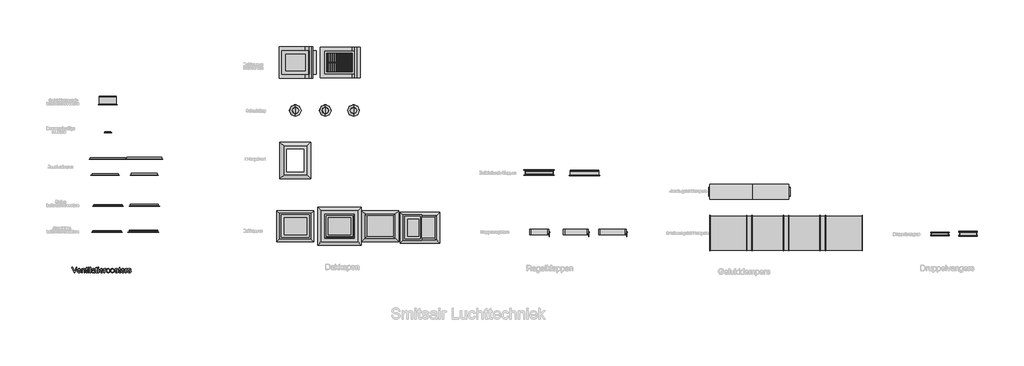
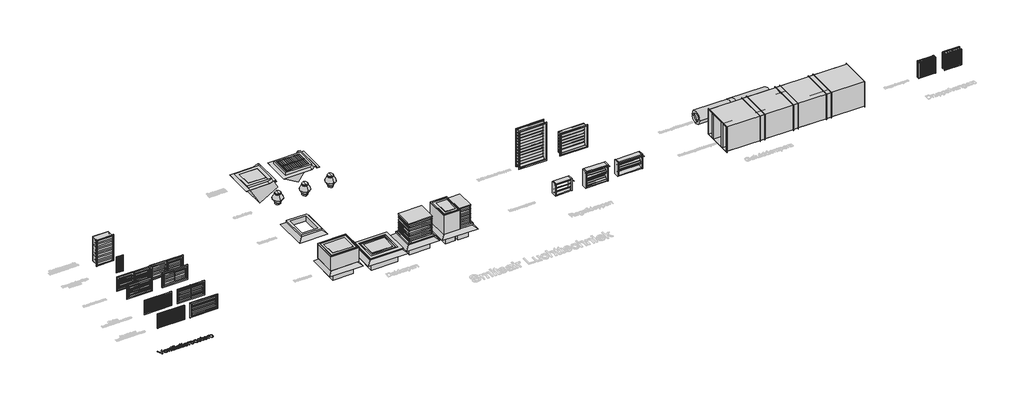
# One storey, part 1 of 10: 22 air terminals, 10 dampers, 5 duct fittings, 1 proxy.
"""IFC4 building model written with IfcOpenShell, lengths in millimetres."""

from ifc_helpers import new_model, si_unit, origin, origin_with_axes, place, context, project, spatial, polyline, outline, extrude, transform, mapped, element, save
from components import air_terminal_f73d2a48, air_terminal_51783a86, ba_50_fd4936a4, ba_70_810faa98, bdd_50_f3f2ff56, bdd_70_adf86e9b, bde_50_40d87701, bde_70_a498eccb, bv_50_3e811bb8, bv_70_c8e80291, bv_70v_ad4d4b1c, dk_2_3b327718, dk_2_3_f9d83f74, dk_2v_9633a85e, dk_3_dd5dadc6, dva_30_cbf1cae8, jkg_1_cb74e8c6, jkk_2_e62a3763, jkk_4_09f567d1, sk_1_al_d2a7be2b, dv_225_al_61a347db, dv_325_al_647e2a6a, gd_100_r_55da12c4, gd_200_r_bc078321, gr_9b835bf4, grk_93a78ed1, zk_1_24b9cdc8, zk_2_b9b7aa7c, dos_al_068ffbaa, dos_al_2472da44, dos_al_ee18bb0b, dos_al_2780d545

model = new_model("IFC4")

# Units and contexts
model_context = context("Model", 3, world=origin())
ifc_project = project(units=[si_unit("LENGTHUNIT", "METRE", prefix="MILLI")], contexts=[model_context])

# Site, building, storey
site = spatial("IfcSite", under=ifc_project)
building = spatial("IfcBuilding", under=site)
storey = spatial("IfcBuildingStorey", under=building, Name="Ventilatieroosters", Elevation=0.0)

# Air terminals
placement = place(None, origin())
air_terminal_shape = air_terminal_f73d2a48(model_context)
element("IfcAirTerminal", 1, ObjectType="NLRS_57_AIR_FB_Dakkap DK-2 verzonken_SMA : DK-2-verzonken", at=placement, inside=storey, context=model_context, shape_type="MappedRepresentation", body=[
    mapped(air_terminal_shape, transform((5430.6479588, -14830.5847281, 0.0), x_axis=(0.0, 1.0, 0.0), y_axis=(-1.0, 0.0, 0.0), z_axis=(0.0, 0.0, 1.0))),
])
air_terminal_2_shape = air_terminal_51783a86(model_context)
element("IfcAirTerminal", 2, ObjectType="NLRS_57_AIR_FB_Geluiddempende buitenluchtroosters GDBV-140 45_SMA : GDBV-140/45", at=placement, inside=storey, context=model_context, shape_type="MappedRepresentation", body=[
    mapped(air_terminal_2_shape, transform((-2775.2629133, -10521.5281632, 250.0), x_axis=(1.0, 0.0, 0.0), y_axis=(0.0, 0.0, 1.0), z_axis=(0.0, -1.0, 0.0))),
])
ba_50_shape = ba_50_fd4936a4(model_context)
element("IfcAirTerminal", 3, ObjectType="NLRS_57_AIR_FB_Buitenluchtroosters BA_SMA : BA-50", at=placement, inside=storey, context=model_context, shape_type="MappedRepresentation", body=[
    mapped(ba_50_shape, transform((-2801.7151524, -15038.7728485, 250.0), x_axis=(1.0, 0.0, 0.0), y_axis=(0.0, 0.0, 1.0), z_axis=(0.0, -1.0, 0.0))),
])
ba_70_shape = ba_70_810faa98(model_context)
element("IfcAirTerminal", 4, ObjectType="NLRS_57_AIR_FB_Buitenluchtroosters BA_SMA : BA-70", at=placement, inside=storey, context=model_context, shape_type="MappedRepresentation", body=[
    mapped(ba_70_shape, transform((-1516.6228349, -15038.7728485, 250.0), x_axis=(1.0, 0.0, 0.0), y_axis=(0.0, 0.0, 1.0), z_axis=(0.0, -1.0, 0.0))),
])
bdd_50_shape = bdd_50_f3f2ff56(model_context)
element("IfcAirTerminal", 5, ObjectType="NLRS_57_AIR_FB_Stalen-roosterdeuren BDD_SMA : BDD-50", at=placement, inside=storey, context=model_context, shape_type="MappedRepresentation", body=[
    mapped(bdd_50_shape, transform((-2775.2629133, -12457.1890865, 250.0), x_axis=(1.0, 0.0, 0.0), y_axis=(0.0, 0.0, 1.0), z_axis=(0.0, -1.0, 0.0))),
])
bdd_70_shape = bdd_70_adf86e9b(model_context)
element("IfcAirTerminal", 6, ObjectType="NLRS_57_AIR_FB_Stalen-roosterdeuren BDD_SMA : BDD-70", at=placement, inside=storey, context=model_context, shape_type="MappedRepresentation", body=[
    mapped(bdd_70_shape, transform((-1483.8873672, -12457.1890865, 250.0), x_axis=(1.0, 0.0, 0.0), y_axis=(0.0, 0.0, 1.0), z_axis=(0.0, -1.0, 0.0))),
])
bde_50_shape = bde_50_40d87701(model_context)
element("IfcAirTerminal", 7, ObjectType="NLRS_57_AIR_FB_Stalen-roosterdeuren BDE_SMA : BDE-50", at=placement, inside=storey, context=model_context, shape_type="MappedRepresentation", body=[
    mapped(bde_50_shape, transform((-2869.8074773, -13021.5281632, 250.0), x_axis=(1.0, 0.0, 0.0), y_axis=(0.0, 0.0, 1.0), z_axis=(0.0, -1.0, 0.0))),
])
bde_70_shape = bde_70_a498eccb(model_context)
element("IfcAirTerminal", 8, ObjectType="NLRS_57_AIR_FB_Stalen-roosterdeuren BDE_SMA : BDE-70", at=placement, inside=storey, context=model_context, shape_type="MappedRepresentation", body=[
    mapped(bde_70_shape, transform((-1483.8873672, -13021.5281632, 250.0), x_axis=(1.0, 0.0, 0.0), y_axis=(0.0, 0.0, 1.0), z_axis=(0.0, -1.0, 0.0))),
])
bv_50_shape = bv_50_3e811bb8(model_context)
element("IfcAirTerminal", 9, ObjectType="NLRS_57_AIR_FB_Buitenluchtroosters BV_SMA : BV-50", at=placement, inside=storey, context=model_context, shape_type="MappedRepresentation", body=[
    mapped(bv_50_shape, transform((-2775.2629133, -14121.5281632, 250.0), x_axis=(1.0, 0.0, 0.0), y_axis=(0.0, 0.0, 1.0), z_axis=(0.0, -1.0, 0.0))),
])
bv_70_shape = bv_70_c8e80291(model_context)
element("IfcAirTerminal", 10, ObjectType="NLRS_57_AIR_FB_Buitenluchtroosters BV_SMA : BV-70", at=placement, inside=storey, context=model_context, shape_type="MappedRepresentation", body=[
    mapped(bv_70_shape, transform((-1483.8873672, -14121.5281632, 250.0), x_axis=(1.0, 0.0, 0.0), y_axis=(0.0, 0.0, 1.0), z_axis=(0.0, -1.0, 0.0))),
])
bv_70v_shape = bv_70v_ad4d4b1c(model_context)
element("IfcAirTerminal", 11, ObjectType="NLRS_57_AIR_FB_Buitenluchtroosters BV-70V_SMA : BV-70V", at=placement, inside=storey, context=model_context, shape_type="MappedRepresentation", body=[
    mapped(bv_70v_shape, transform((5430.6479588, -9030.5847281, 0.0), x_axis=(0.0, 1.0, 0.0), y_axis=(-1.0, 0.0, 0.0), z_axis=(0.0, 0.0, 1.0))),
])
dk_2_shape = dk_2_3b327718(model_context)
element("IfcAirTerminal", 12, ObjectType="NLRS_57_AIR_FB_Dakkap DK-2_SMA : DK-2", at=placement, inside=storey, context=model_context, shape_type="MappedRepresentation", body=[
    mapped(dk_2_shape, transform((3868.8455262, -14830.5847281, 0.0), x_axis=(0.0, 1.0, 0.0), y_axis=(-1.0, 0.0, 0.0), z_axis=(0.0, 0.0, 1.0))),
])
dk_2_3_shape = dk_2_3_f9d83f74(model_context)
element("IfcAirTerminal", 13, ObjectType="NLRS_57_AIR_FB_Dakkap DK-23_SMA : DK-2/3", at=placement, inside=storey, context=model_context, shape_type="MappedRepresentation", body=[
    mapped(dk_2_3_shape, transform((8342.6268073, -14880.5847281, 0.0), x_axis=(1.0, 0.0, 0.0), y_axis=(0.0, 1.0, 0.0), z_axis=(0.0, 0.0, 1.0))),
])
dk_2v_shape = dk_2v_9633a85e(model_context)
element("IfcAirTerminal", 14, ObjectType="NLRS_57_AIR_FB_Dakkap DK-2V_SMA : DK-2V", at=placement, inside=storey, context=model_context, shape_type="MappedRepresentation", body=[
    mapped(dk_2v_shape, transform((3868.8455262, -9030.5847281, 0.0), x_axis=(0.0, 1.0, 0.0), y_axis=(-1.0, 0.0, 0.0), z_axis=(0.0, 0.0, 1.0))),
])
dk_3_shape = dk_3_dd5dadc6(model_context)
element("IfcAirTerminal", 15, ObjectType="NLRS_57_AIR_FB_Dakkap DK-3_SMA : DK-3", at=placement, inside=storey, context=model_context, shape_type="MappedRepresentation", body=[
    mapped(dk_3_shape, transform((6874.8932662, -14830.5847281, 0.0), x_axis=(0.0, 1.0, 0.0), y_axis=(-1.0, 0.0, 0.0), z_axis=(0.0, 0.0, 1.0))),
])
dva_30_shape = dva_30_cbf1cae8(model_context)
element("IfcAirTerminal", 16, ObjectType="NLRS_57_AIR_FB_Doorsteekveiligrooster DVA-30_SMA : DVA-30", at=placement, inside=storey, context=model_context, shape_type="MappedRepresentation", body=[
    mapped(dva_30_shape, transform((-2775.2629133, -11521.5281632, 300.0), x_axis=(1.0, 0.0, 0.0), y_axis=(0.0, 0.0, 1.0), z_axis=(0.0, -1.0, 0.0))),
])
jkg_1_shape = jkg_1_cb74e8c6(model_context)
element("IfcAirTerminal", 17, ObjectType="NLRS_57_DUA_UN_Kleppenregisters_SMA : JKG-1", at=placement, inside=storey, context=model_context, shape_type="MappedRepresentation", body=[
    mapped(jkg_1_shape, transform((12510.6479588, -15031.3842537, 300.0), x_axis=(0.0, -1.0, 0.0), y_axis=(1.0, 0.0, 0.0), z_axis=(0.0, 0.0, 1.0))),
])
jkk_2_shape = jkk_2_e62a3763(model_context)
element("IfcAirTerminal", 18, ObjectType="NLRS_57_DUA_UN_Kleppenregisters_SMA : JKK-2", at=placement, inside=storey, context=model_context, shape_type="MappedRepresentation", body=[
    mapped(jkk_2_shape, transform((13810.6479588, -15031.3842537, 300.0), x_axis=(0.0, -1.0, 0.0), y_axis=(1.0, 0.0, 0.0), z_axis=(0.0, 0.0, 1.0))),
])
jkk_4_shape = jkk_4_09f567d1(model_context)
element("IfcAirTerminal", 19, ObjectType="NLRS_57_DUA_UN_Kleppenregisters_SMA : JKK-4", at=placement, inside=storey, context=model_context, shape_type="MappedRepresentation", body=[
    mapped(jkk_4_shape, transform((15110.6479588, -15031.3842537, 300.0), x_axis=(0.0, -1.0, 0.0), y_axis=(1.0, 0.0, 0.0), z_axis=(0.0, 0.0, 1.0))),
])
sk_1_al_shape = sk_1_al_d2a7be2b(model_context)
element("IfcAirTerminal", 20, ObjectType="NLRS_57_AIR_FB_Schachtkap SK-1_SMA : SK-1/AL", at=placement, inside=storey, context=model_context, shape_type="MappedRepresentation", body=[
    mapped(sk_1_al_shape, transform((3868.8455262, -10727.1890865, 0.0), x_axis=(0.0, 1.0, 0.0), y_axis=(-1.0, 0.0, 0.0), z_axis=(0.0, 0.0, 1.0))),
])
element("IfcAirTerminal", 21, ObjectType="NLRS_57_AIR_FB_Schachtkap SK-1_SMA : SK-1/RVS", at=placement, inside=storey, context=model_context, shape_type="MappedRepresentation", body=[
    mapped(sk_1_al_shape, transform((4930.6479588, -10727.1890865, 0.0), x_axis=(0.0, 1.0, 0.0), y_axis=(-1.0, 0.0, 0.0), z_axis=(0.0, 0.0, 1.0))),
])
element("IfcAirTerminal", 22, ObjectType="NLRS_57_AIR_FB_Schachtkap SK-1_SMA : SK-1/VV", at=placement, inside=storey, context=model_context, shape_type="MappedRepresentation", body=[
    mapped(sk_1_al_shape, transform((5930.6479588, -10727.1890865, 0.0), x_axis=(0.0, 1.0, 0.0), y_axis=(-1.0, 0.0, 0.0), z_axis=(0.0, 0.0, 1.0))),
])

# Proxy
element("IfcBuildingElementProxy", 23, Name="200mm", ObjectType="200mm", at=placement, inside=storey, context=model_context, shape_type="SweptSolid", body=[
    extrude(outline(polyline([(-3973.5523473, -16478.0938306), (-4051.9177319, -16281.1707536), (-4025.571578, -16281.1707536), (-3973.119655, -16423.0457536), (-3962.494655, -16455.0169075), (-3952.0138857, -16423.0457536), (-3899.4177319, -16281.1707536), (-3873.071578, -16281.1707536), (-3948.119655, -16478.0938306), (-3973.5523473, -16478.0938306)])), origin_with_axes(), (0.0, 0.0, 1.0), 5.0),
    extrude(outline(polyline([(-3752.0138857, -16435.0169075), (-3727.8792704, -16438.0938306), (-3736.5751838, -16456.2789267), (-3750.4513857, -16469.8726767), (-3769.1953761, -16478.3462344), (-3792.494655, -16481.1707536), (-3821.3768665, -16476.2969556), (-3843.6004242, -16461.6755613), (-3857.7710973, -16438.2560902), (-3862.494655, -16406.9880613), (-3857.7230204, -16374.6683498), (-3843.4081165, -16350.4976767), (-3821.4850396, -16335.4255613), (-3793.8888857, -16330.4015229), (-3767.1521069, -16335.4135421), (-3745.7879242, -16350.4495998), (-3731.7795107, -16374.572196), (-3727.1100396, -16406.8438306), (-3727.2542704, -16413.478446), (-3837.8792704, -16413.478446), (-3833.618453, -16431.9039267), (-3823.7206165, -16445.4495998), (-3809.4357607, -16453.7789267), (-3792.0138857, -16456.555369), (-3767.8792704, -16451.4111383), (-3758.9129242, -16444.7404652), (-3752.0138857, -16435.0169075)]), holes=[polyline([(-3837.8792704, -16388.8630613), (-3751.7254242, -16388.8630613), (-3755.0547511, -16375.8582536), (-3761.5811934, -16366.555369), (-3775.932155, -16357.9015229), (-3793.9850396, -16355.0169075), (-3810.5775877, -16357.3185902), (-3824.2975396, -16364.2236383), (-3833.8347992, -16374.9868594), (-3837.8792704, -16388.8630613)])]), origin_with_axes(), (0.0, 0.0, 1.0), 5.0),
    extrude(outline(polyline([(-3702.494655, -16478.0938306), (-3702.494655, -16333.478446), (-3677.8792704, -16333.478446), (-3677.8792704, -16353.6707536), (-3669.3275877, -16343.4904652), (-3659.057155, -16336.2188306), (-3647.0679723, -16331.8558498), (-3633.3600396, -16330.4015229), (-3610.1148473, -16335.0890229), (-3594.2494627, -16347.3967152), (-3586.869655, -16365.4976767), (-3585.571578, -16389.2957536), (-3585.571578, -16478.0938306), (-3610.1869627, -16478.0938306), (-3610.1869627, -16392.6130613), (-3613.0235011, -16370.8342152), (-3623.0475396, -16359.3197921), (-3639.946578, -16355.0169075), (-3654.3636454, -16357.4327729), (-3666.6533088, -16364.680369), (-3675.07278, -16378.6827729), (-3677.8792704, -16401.3630613), (-3677.8792704, -16478.0938306), (-3702.494655, -16478.0938306)])), origin_with_axes(), (0.0, 0.0, 1.0), 5.0),
    extrude(outline(polyline([(-3499.4177319, -16457.5649844), (-3496.3408088, -16478.8149844), (-3514.7542704, -16481.1707536), (-3535.3792704, -16477.0842152), (-3545.6677319, -16466.3630613), (-3548.6485011, -16438.430369), (-3548.6485011, -16358.0938306), (-3567.1100396, -16358.0938306), (-3567.1100396, -16333.478446), (-3548.6485011, -16333.478446), (-3548.6485011, -16298.3342152), (-3524.0331165, -16283.8630613), (-3524.0331165, -16333.478446), (-3499.4177319, -16333.478446), (-3499.4177319, -16358.0938306), (-3524.0331165, -16358.0938306), (-3524.0331165, -16437.7092152), (-3522.7350396, -16450.4015229), (-3518.5283088, -16454.8967152), (-3510.1388857, -16456.555369), (-3499.4177319, -16457.5649844)])), origin_with_axes(), (0.0, 0.0, 1.0), 5.0),
    extrude(outline(polyline([(-3474.8023473, -16305.7861383), (-3474.8023473, -16281.1707536), (-3450.1869627, -16281.1707536), (-3450.1869627, -16305.7861383), (-3474.8023473, -16305.7861383)])), origin_with_axes(), (0.0, 0.0, 1.0), 5.0),
    extrude(outline(polyline([(-3474.8023473, -16478.0938306), (-3474.8023473, -16333.478446), (-3450.1869627, -16333.478446), (-3450.1869627, -16478.0938306), (-3474.8023473, -16478.0938306)])), origin_with_axes(), (0.0, 0.0, 1.0), 5.0),
    extrude(outline(polyline([(-3413.2638857, -16478.0938306), (-3413.2638857, -16281.1707536), (-3388.6485011, -16281.1707536), (-3388.6485011, -16478.0938306), (-3413.2638857, -16478.0938306)])), origin_with_axes(), (0.0, 0.0, 1.0), 5.0),
    extrude(outline(polyline([(-3259.4177319, -16459.6322921), (-3283.2879242, -16476.3149844), (-3309.6581165, -16481.1707536), (-3330.22903, -16478.2500806), (-3345.4033088, -16469.4880613), (-3354.76028, -16456.1827729), (-3357.8792704, -16439.6322921), (-3353.1677319, -16420.1611383), (-3340.7879242, -16406.0265229), (-3323.5523473, -16397.9495998), (-3302.2542704, -16394.2476767), (-3259.5619627, -16385.7861383), (-3259.4177319, -16380.305369), (-3261.1124434, -16369.3197921), (-3266.196578, -16362.1322921), (-3277.5667704, -16356.7957536), (-3293.4081165, -16355.0169075), (-3318.3119627, -16359.7524844), (-3325.2951357, -16366.320994), (-3330.1869627, -16376.555369), (-3354.8023473, -16373.478446), (-3344.1533088, -16349.4399844), (-3335.0787896, -16341.3510421), (-3322.7110011, -16335.353446), (-3290.2350396, -16330.4015229), (-3260.4033088, -16334.7765229), (-3243.5523473, -16345.7620998), (-3236.0042704, -16362.4688306), (-3234.8023473, -16384.0072921), (-3234.8023473, -16414.6322921), (-3233.5523473, -16457.3967152), (-3228.6485011, -16478.0938306), (-3253.2638857, -16478.0938306), (-3259.4177319, -16459.6322921)]), holes=[polyline([(-3259.4177319, -16410.4015229), (-3299.1292704, -16417.9495998), (-3320.307155, -16421.9399844), (-3329.8985011, -16428.430369), (-3333.2638857, -16437.9015229), (-3331.430953, -16445.2212344), (-3325.932155, -16451.2188306), (-3316.8876838, -16455.2212344), (-3304.4177319, -16456.555369), (-3291.196578, -16455.0830133), (-3279.5138857, -16450.665946), (-3263.4561934, -16436.4111383), (-3259.5619627, -16417.3726767), (-3259.4177319, -16410.4015229)])]), origin_with_axes(), (0.0, 0.0, 1.0), 5.0),
    extrude(outline(polyline([(-3148.6485011, -16457.5649844), (-3145.571578, -16478.8149844), (-3163.9850396, -16481.1707536), (-3184.6100396, -16477.0842152), (-3194.8985011, -16466.3630613), (-3197.8792704, -16438.430369), (-3197.8792704, -16358.0938306), (-3216.3408088, -16358.0938306), (-3216.3408088, -16333.478446), (-3197.8792704, -16333.478446), (-3197.8792704, -16298.3342152), (-3173.2638857, -16283.8630613), (-3173.2638857, -16333.478446), (-3148.6485011, -16333.478446), (-3148.6485011, -16358.0938306), (-3173.2638857, -16358.0938306), (-3173.2638857, -16437.7092152), (-3171.9658088, -16450.4015229), (-3167.759078, -16454.8967152), (-3159.369655, -16456.555369), (-3148.6485011, -16457.5649844)])), origin_with_axes(), (0.0, 0.0, 1.0), 5.0),
    extrude(outline(polyline([(-3124.0331165, -16305.7861383), (-3124.0331165, -16281.1707536), (-3099.4177319, -16281.1707536), (-3099.4177319, -16305.7861383), (-3124.0331165, -16305.7861383)])), origin_with_axes(), (0.0, 0.0, 1.0), 5.0),
    extrude(outline(polyline([(-3124.0331165, -16478.0938306), (-3124.0331165, -16333.478446), (-3099.4177319, -16333.478446), (-3099.4177319, -16478.0938306), (-3124.0331165, -16478.0938306)])), origin_with_axes(), (0.0, 0.0, 1.0), 5.0),
    extrude(outline(polyline([(-2961.244655, -16435.0169075), (-2937.1100396, -16438.0938306), (-2945.805953, -16456.2789267), (-2959.682155, -16469.8726767), (-2978.4261454, -16478.3462344), (-3001.7254242, -16481.1707536), (-3030.6076357, -16476.2969556), (-3052.8311934, -16461.6755613), (-3067.0018665, -16438.2560902), (-3071.7254242, -16406.9880613), (-3066.9537896, -16374.6683498), (-3052.6388857, -16350.4976767), (-3030.7158088, -16335.4255613), (-3003.119655, -16330.4015229), (-2976.3828761, -16335.4135421), (-2955.0186934, -16350.4495998), (-2941.01028, -16374.572196), (-2936.3408088, -16406.8438306), (-2936.4850396, -16413.478446), (-3047.1100396, -16413.478446), (-3042.8492223, -16431.9039267), (-3032.9513857, -16445.4495998), (-3018.66653, -16453.7789267), (-3001.244655, -16456.555369), (-2977.1100396, -16451.4111383), (-2968.1436934, -16444.7404652), (-2961.244655, -16435.0169075)]), holes=[polyline([(-3047.1100396, -16388.8630613), (-2960.9561934, -16388.8630613), (-2964.2855204, -16375.8582536), (-2970.8119627, -16366.555369), (-2985.1629242, -16357.9015229), (-3003.2158088, -16355.0169075), (-3019.8083569, -16357.3185902), (-3033.5283088, -16364.2236383), (-3043.0655684, -16374.9868594), (-3047.1100396, -16388.8630613)])]), origin_with_axes(), (0.0, 0.0, 1.0), 5.0),
    extrude(outline(polyline([(-2911.7254242, -16478.0938306), (-2911.7254242, -16333.478446), (-2890.1869627, -16333.478446), (-2890.1869627, -16354.8726767), (-2874.8985011, -16335.1611383), (-2859.5138857, -16330.4015229), (-2847.2542704, -16332.3005613), (-2834.8023473, -16337.9976767), (-2843.0235011, -16360.0649844), (-2860.3311934, -16355.0169075), (-2874.2494627, -16359.8726767), (-2883.119655, -16373.3342152), (-2887.1100396, -16402.0842152), (-2887.1100396, -16478.0938306), (-2911.7254242, -16478.0938306)])), origin_with_axes(), (0.0, 0.0, 1.0), 5.0),
    extrude(outline(polyline([(-2825.571578, -16405.7861383), (-2820.2470588, -16370.9183498), (-2813.5914098, -16357.3696719), (-2804.2735011, -16346.4111383), (-2784.5379242, -16334.4039267), (-2760.9081165, -16330.4015229), (-2735.0487415, -16335.275321), (-2714.3936934, -16349.8967152), (-2700.85403, -16373.1118594), (-2696.3408088, -16403.7669075), (-2698.3360011, -16428.634696), (-2704.321578, -16447.5649844), (-2714.1232607, -16461.7416671), (-2727.5667704, -16472.3486383), (-2743.5343184, -16478.9652248), (-2760.9081165, -16481.1707536), (-2787.0799915, -16476.3149844), (-2807.7110011, -16461.7476767), (-2821.1064338, -16438.0457536), (-2825.571578, -16405.7861383)]), holes=[polyline([(-2800.9561934, -16405.7380613), (-2798.1076357, -16428.0157056), (-2789.5619627, -16443.8870998), (-2776.7013857, -16453.3883017), (-2760.9081165, -16456.555369), (-2745.1869627, -16453.3702729), (-2732.3504242, -16443.8149844), (-2723.8047511, -16427.7332536), (-2720.9561934, -16404.9688306), (-2723.82278, -16383.3402248), (-2732.4225396, -16367.6851767), (-2745.2771069, -16358.1839748), (-2760.9081165, -16355.0169075), (-2776.7013857, -16358.1719556), (-2789.5619627, -16367.6370998), (-2798.1076357, -16383.4724363), (-2800.9561934, -16405.7380613)])]), origin_with_axes(), (0.0, 0.0, 1.0), 5.0),
    extrude(outline(polyline([(-2674.8023473, -16405.7861383), (-2669.477828, -16370.9183498), (-2662.822179, -16357.3696719), (-2653.5042704, -16346.4111383), (-2633.7686934, -16334.4039267), (-2610.1388857, -16330.4015229), (-2584.2795107, -16335.275321), (-2563.6244627, -16349.8967152), (-2550.0847992, -16373.1118594), (-2545.571578, -16403.7669075), (-2547.5667704, -16428.634696), (-2553.5523473, -16447.5649844), (-2563.35403, -16461.7416671), (-2576.7975396, -16472.3486383), (-2592.7650877, -16478.9652248), (-2610.1388857, -16481.1707536), (-2636.3107607, -16476.3149844), (-2656.9417704, -16461.7476767), (-2670.337203, -16438.0457536), (-2674.8023473, -16405.7861383)]), holes=[polyline([(-2650.1869627, -16405.7380613), (-2647.338405, -16428.0157056), (-2638.7927319, -16443.8870998), (-2625.932155, -16453.3883017), (-2610.1388857, -16456.555369), (-2594.4177319, -16453.3702729), (-2581.5811934, -16443.8149844), (-2573.0355204, -16427.7332536), (-2570.1869627, -16404.9688306), (-2573.0535492, -16383.3402248), (-2581.6533088, -16367.6851767), (-2594.5078761, -16358.1839748), (-2610.1388857, -16355.0169075), (-2625.932155, -16358.1719556), (-2638.7927319, -16367.6370998), (-2647.338405, -16383.4724363), (-2650.1869627, -16405.7380613)])]), origin_with_axes(), (0.0, 0.0, 1.0), 5.0),
    extrude(outline(polyline([(-2527.1100396, -16435.0169075), (-2502.494655, -16431.9399844), (-2498.6124434, -16442.4688306), (-2491.1004242, -16450.2092152), (-2479.9105204, -16454.9688306), (-2464.994655, -16456.555369), (-2450.259078, -16455.1010421), (-2439.8985011, -16450.7380613), (-2433.7686934, -16444.415946), (-2431.7254242, -16437.0842152), (-2433.7807127, -16430.8101767), (-2439.946578, -16426.0265229), (-2465.2831165, -16419.0072921), (-2502.3504242, -16406.9640229), (-2518.5283088, -16392.9015229), (-2524.0331165, -16373.0457536), (-2519.6100396, -16354.7044075), (-2507.5427319, -16340.6899844), (-2491.8936934, -16333.4063306), (-2470.7158088, -16330.4015229), (-2440.7638857, -16335.2332536), (-2429.5619627, -16340.9183498), (-2421.7254242, -16348.3101767), (-2413.2638857, -16370.4015229), (-2437.8792704, -16373.478446), (-2440.9862415, -16365.7320517), (-2447.134078, -16359.8967152), (-2468.7927319, -16355.0169075), (-2482.9273473, -16356.1827729), (-2492.3504242, -16359.680369), (-2497.650905, -16364.728446), (-2499.4177319, -16370.5457536), (-2496.4850396, -16377.7092152), (-2487.3023473, -16383.1419075), (-2466.1004242, -16388.3822921), (-2429.9706165, -16399.9688306), (-2413.1917704, -16413.0938306), (-2408.6304723, -16422.7452729), (-2407.1100396, -16434.4880613), (-2408.8948954, -16446.6274844), (-2414.2494627, -16458.0457536), (-2422.9694146, -16467.8474363), (-2434.8504242, -16475.1370998), (-2449.2013857, -16479.6623402), (-2465.3311934, -16481.1707536), (-2490.150905, -16478.2620998), (-2508.2638857, -16469.5361383), (-2520.3552319, -16455.0890229), (-2527.1100396, -16435.0169075)])), origin_with_axes(), (0.0, 0.0, 1.0), 5.0),
    extrude(outline(polyline([(-2327.1100396, -16457.5649844), (-2324.0331165, -16478.8149844), (-2342.446578, -16481.1707536), (-2363.071578, -16477.0842152), (-2373.3600396, -16466.3630613), (-2376.3408088, -16438.430369), (-2376.3408088, -16358.0938306), (-2394.8023473, -16358.0938306), (-2394.8023473, -16333.478446), (-2376.3408088, -16333.478446), (-2376.3408088, -16298.3342152), (-2351.7254242, -16283.8630613), (-2351.7254242, -16333.478446), (-2327.1100396, -16333.478446), (-2327.1100396, -16358.0938306), (-2351.7254242, -16358.0938306), (-2351.7254242, -16437.7092152), (-2350.4273473, -16450.4015229), (-2346.2206165, -16454.8967152), (-2337.8311934, -16456.555369), (-2327.1100396, -16457.5649844)])), origin_with_axes(), (0.0, 0.0, 1.0), 5.0),
    extrude(outline(polyline([(-2201.244655, -16435.0169075), (-2177.1100396, -16438.0938306), (-2185.805953, -16456.2789267), (-2199.682155, -16469.8726767), (-2218.4261454, -16478.3462344), (-2241.7254242, -16481.1707536), (-2270.6076357, -16476.2969556), (-2292.8311934, -16461.6755613), (-2307.0018665, -16438.2560902), (-2311.7254242, -16406.9880613), (-2306.9537896, -16374.6683498), (-2292.6388857, -16350.4976767), (-2270.7158088, -16335.4255613), (-2243.119655, -16330.4015229), (-2216.3828761, -16335.4135421), (-2195.0186934, -16350.4495998), (-2181.01028, -16374.572196), (-2176.3408088, -16406.8438306), (-2176.4850396, -16413.478446), (-2287.1100396, -16413.478446), (-2282.8492223, -16431.9039267), (-2272.9513857, -16445.4495998), (-2258.66653, -16453.7789267), (-2241.244655, -16456.555369), (-2217.1100396, -16451.4111383), (-2208.1436934, -16444.7404652), (-2201.244655, -16435.0169075)]), holes=[polyline([(-2287.1100396, -16388.8630613), (-2200.9561934, -16388.8630613), (-2204.2855204, -16375.8582536), (-2210.8119627, -16366.555369), (-2225.1629242, -16357.9015229), (-2243.2158088, -16355.0169075), (-2259.8083569, -16357.3185902), (-2273.5283088, -16364.2236383), (-2283.0655684, -16374.9868594), (-2287.1100396, -16388.8630613)])]), origin_with_axes(), (0.0, 0.0, 1.0), 5.0),
    extrude(outline(polyline([(-2151.7254242, -16478.0938306), (-2151.7254242, -16333.478446), (-2130.1869627, -16333.478446), (-2130.1869627, -16354.8726767), (-2114.8985011, -16335.1611383), (-2099.5138857, -16330.4015229), (-2087.2542704, -16332.3005613), (-2074.8023473, -16337.9976767), (-2083.0235011, -16360.0649844), (-2100.3311934, -16355.0169075), (-2114.2494627, -16359.8726767), (-2123.119655, -16373.3342152), (-2127.1100396, -16402.0842152), (-2127.1100396, -16478.0938306), (-2151.7254242, -16478.0938306)])), origin_with_axes(), (0.0, 0.0, 1.0), 5.0),
    extrude(outline(polyline([(-2068.6485011, -16435.0169075), (-2044.0331165, -16431.9399844), (-2040.150905, -16442.4688306), (-2032.6388857, -16450.2092152), (-2021.4489819, -16454.9688306), (-2006.5331165, -16456.555369), (-1991.7975396, -16455.1010421), (-1981.4369627, -16450.7380613), (-1975.307155, -16444.415946), (-1973.2638857, -16437.0842152), (-1975.3191742, -16430.8101767), (-1981.4850396, -16426.0265229), (-2006.821578, -16419.0072921), (-2043.8888857, -16406.9640229), (-2060.0667704, -16392.9015229), (-2065.571578, -16373.0457536), (-2061.1485011, -16354.7044075), (-2049.0811934, -16340.6899844), (-2033.432155, -16333.4063306), (-2012.2542704, -16330.4015229), (-1982.3023473, -16335.2332536), (-1971.1004242, -16340.9183498), (-1963.2638857, -16348.3101767), (-1954.8023473, -16370.4015229), (-1979.4177319, -16373.478446), (-1982.524703, -16365.7320517), (-1988.6725396, -16359.8967152), (-2010.3311934, -16355.0169075), (-2024.4658088, -16356.1827729), (-2033.8888857, -16359.680369), (-2039.1893665, -16364.728446), (-2040.9561934, -16370.5457536), (-2038.0235011, -16377.7092152), (-2028.8408088, -16383.1419075), (-2007.6388857, -16388.3822921), (-1971.509078, -16399.9688306), (-1954.7302319, -16413.0938306), (-1950.1689338, -16422.7452729), (-1948.6485011, -16434.4880613), (-1950.4333569, -16446.6274844), (-1955.7879242, -16458.0457536), (-1964.5078761, -16467.8474363), (-1976.3888857, -16475.1370998), (-1990.7398473, -16479.6623402), (-2006.869655, -16481.1707536), (-2031.6893665, -16478.2620998), (-2049.8023473, -16469.5361383), (-2061.8936934, -16455.0890229), (-2068.6485011, -16435.0169075)])), origin_with_axes(), (0.0, 0.0, 1.0), 5.0),
])

# Dampers
dv_225_al_shape = dv_225_al_61a347db(model_context)
element("IfcDamper", 24, ObjectType="NLRS_57_DUA_UN_Druppelvangers DV_SMA : DV-225/AL", at=placement, inside=storey, context=model_context, shape_type="MappedRepresentation", body=[
    mapped(dv_225_al_shape, transform((26710.6479588, -15102.7465167, 300.0), x_axis=(0.0, -1.0, 0.0), y_axis=(1.0, 0.0, 0.0), z_axis=(0.0, 0.0, 1.0))),
])
dv_325_al_shape = dv_325_al_647e2a6a(model_context)
element("IfcDamper", 25, ObjectType="NLRS_57_DUA_UN_Druppelvangers DV_SMA : DV-325/AL", at=placement, inside=storey, context=model_context, shape_type="MappedRepresentation", body=[
    mapped(dv_325_al_shape, transform((27710.6479588, -15102.7465167, 300.0), x_axis=(0.0, -1.0, 0.0), y_axis=(1.0, 0.0, 0.0), z_axis=(0.0, 0.0, 1.0))),
])
gd_100_r_shape = gd_100_r_55da12c4(model_context)
element("IfcDamper", 26, ObjectType="NLRS_57_DUA_UN_Coulissengeluiddempers_SMA : GD-100", at=placement, inside=storey, context=model_context, shape_type="MappedRepresentation", body=[
    mapped(gd_100_r_shape, transform((19310.6479588, -15073.4453411, 500.0), x_axis=(1.0, 0.0, 0.0), y_axis=(0.0, 1.0, 0.0), z_axis=(0.0, 0.0, 1.0))),
])
element("IfcDamper", 27, ObjectType="NLRS_57_DUA_UN_Coulissengeluiddempers_SMA : GD-100 R", at=placement, inside=storey, context=model_context, shape_type="MappedRepresentation", body=[
    mapped(gd_100_r_shape, transform((20610.6479588, -15073.4453411, 500.0), x_axis=(1.0, 0.0, 0.0), y_axis=(0.0, 1.0, 0.0), z_axis=(0.0, 0.0, 1.0))),
])
gd_200_r_shape = gd_200_r_bc078321(model_context)
element("IfcDamper", 28, ObjectType="NLRS_57_DUA_UN_Coulissengeluiddempers_SMA : GD-200", at=placement, inside=storey, context=model_context, shape_type="MappedRepresentation", body=[
    mapped(gd_200_r_shape, transform((21910.6479588, -15073.4453411, 500.0), x_axis=(1.0, 0.0, 0.0), y_axis=(0.0, 1.0, 0.0), z_axis=(0.0, 0.0, 1.0))),
])
element("IfcDamper", 29, ObjectType="NLRS_57_DUA_UN_Coulissengeluiddempers_SMA : GD-200 R", at=placement, inside=storey, context=model_context, shape_type="MappedRepresentation", body=[
    mapped(gd_200_r_shape, transform((23210.6479588, -15073.4453411, 500.0), x_axis=(1.0, 0.0, 0.0), y_axis=(0.0, 1.0, 0.0), z_axis=(0.0, 0.0, 1.0))),
])
gr_shape = gr_9b835bf4(model_context)
element("IfcDamper", 30, ObjectType="NLRS_57_DUA_UN_Ronde geluiddempers_SMA : GR", at=placement, inside=storey, context=model_context, shape_type="MappedRepresentation", body=[
    mapped(gr_shape, transform((19310.6479588, -13610.5159108, 162.5), x_axis=(1.0, 0.0, 0.0), y_axis=(0.0, 1.0, 0.0), z_axis=(0.0, 0.0, 1.0))),
])
grk_shape = grk_93a78ed1(model_context)
element("IfcDamper", 31, ObjectType="NLRS_57_DUA_UN_Ronde geluiddempers_SMA : GRK", at=placement, inside=storey, context=model_context, shape_type="MappedRepresentation", body=[
    mapped(grk_shape, transform((20610.6479588, -13610.5159108, 162.5), x_axis=(1.0, 0.0, 0.0), y_axis=(0.0, 1.0, 0.0), z_axis=(0.0, 0.0, 1.0))),
])
zk_1_shape = zk_1_24b9cdc8(model_context)
element("IfcDamper", 32, ObjectType="NLRS_57_DUA_UN_Zelfsluitende kleppen ZK-1_SMA : ZK-1", at=placement, inside=storey, context=model_context, shape_type="MappedRepresentation", body=[
    mapped(zk_1_shape, transform((12510.6479588, -12931.3842537, 750.0), x_axis=(0.0, -1.0, 0.0), y_axis=(1.0, 0.0, 0.0), z_axis=(0.0, 0.0, 1.0))),
])
zk_2_shape = zk_2_b9b7aa7c(model_context)
element("IfcDamper", 33, ObjectType="NLRS_57_AIR_FB_Zelfsluitende kleppen ZK-2_SMA : ZK-2", at=placement, inside=storey, context=model_context, shape_type="MappedRepresentation", body=[
    mapped(zk_2_shape, transform((14111.9877731, -13032.9107511, 420.0), x_axis=(1.0, 0.0, 0.0), y_axis=(0.0, 0.0, 1.0), z_axis=(0.0, -1.0, 0.0))),
])

# Duct fittings
dos_al_shape = dos_al_068ffbaa(model_context)
element("IfcDuctFitting", 34, ObjectType="NLRS_57_DUF_FB_Dakopstand DOS-AL_SH_SMA : DOS/AL", at=placement, inside=storey, context=model_context, shape_type="MappedRepresentation", body=[
    mapped(dos_al_shape, transform((5430.6479588, -14830.5847281, 0.0), x_axis=(0.0, 1.0, 0.0), y_axis=(-1.0, 0.0, 0.0), z_axis=(0.0, 0.0, 1.0))),
])
dos_al_2_shape = dos_al_2472da44(model_context)
element("IfcDuctFitting", 35, ObjectType="NLRS_57_DUF_FB_Dakopstand DOS-AL_SH_SMA : DOS/AL", at=placement, inside=storey, context=model_context, shape_type="MappedRepresentation", body=[
    mapped(dos_al_2_shape, transform((3868.8455262, -12507.1890865, 0.0), x_axis=(0.0, 1.0, 0.0), y_axis=(-1.0, 0.0, 0.0), z_axis=(0.0, 0.0, 1.0))),
])
dos_al_3_shape = dos_al_ee18bb0b(model_context)
element("IfcDuctFitting", 36, ObjectType="NLRS_57_DUF_FB_Dakopstand DOS-AL_SH_SMA : DOS/AL", at=placement, inside=storey, context=model_context, shape_type="MappedRepresentation", body=[
    mapped(dos_al_3_shape, transform((3868.8455262, -14830.5847281, 0.0), x_axis=(0.0, 1.0, 0.0), y_axis=(-1.0, 0.0, 0.0), z_axis=(0.0, 0.0, 1.0))),
])
element("IfcDuctFitting", 37, ObjectType="NLRS_57_DUF_FB_Dakopstand DOS-AL_SH_SMA : DOS/AL", at=placement, inside=storey, context=model_context, shape_type="MappedRepresentation", body=[
    mapped(dos_al_3_shape, transform((6874.8932662, -14830.5847281, 0.0), x_axis=(0.0, 1.0, 0.0), y_axis=(-1.0, 0.0, 0.0), z_axis=(0.0, 0.0, 1.0))),
])
dos_al_4_shape = dos_al_2780d545(model_context)
element("IfcDuctFitting", 38, ObjectType="NLRS_57_DUF_FB_Dakopstand DOS-AL_SH_SMA : DOS/AL", at=placement, inside=storey, context=model_context, shape_type="MappedRepresentation", body=[
    mapped(dos_al_4_shape, transform((8292.6268073, -14880.5847281, 0.0), x_axis=(1.0, 0.0, 0.0), y_axis=(0.0, 1.0, 0.0), z_axis=(0.0, 0.0, 1.0))),
])

save(model, "model.ifc")
